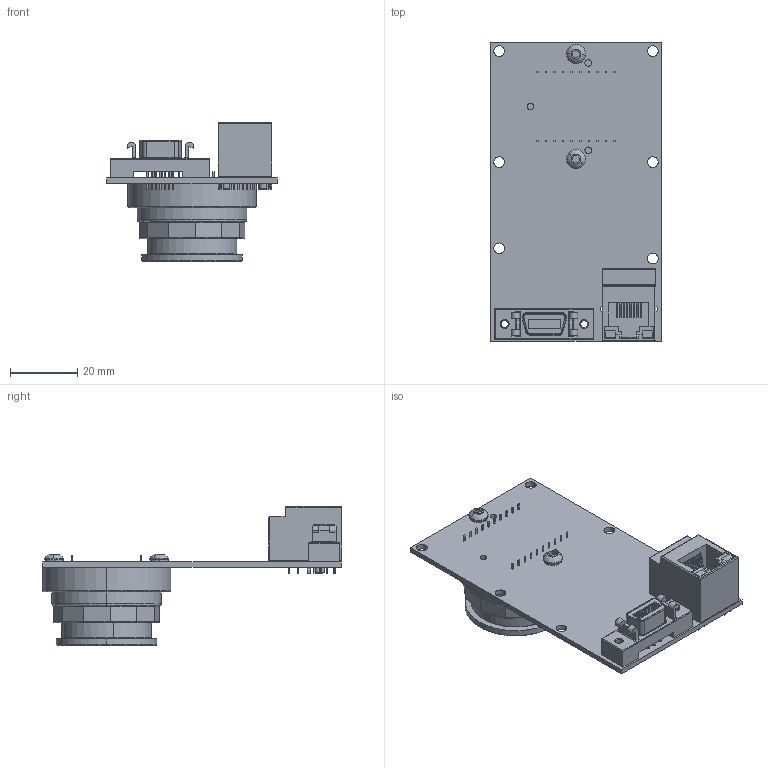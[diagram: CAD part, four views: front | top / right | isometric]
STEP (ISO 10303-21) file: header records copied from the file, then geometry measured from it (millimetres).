
FILE_DESCRIPTION (( 'STEP AP214' ), '1' );
FILE_NAME ('GB1380-V.STEP', '2013-07-31T22:55:26', ( '' ), ( '' ), 'SwSTEP 2.0', 'SolidWorks 2013', '' );
FILE_SCHEMA (( 'AUTOMOTIVE_DESIGN' ));
Length unit declared in the file: millimetre
Products named in the file (16): 140008-washer spring lock #4; 200082B-GB1380-650-LS-V; 260038-HALO HFJV1-E1G16-L12RL; 200080B-GB1380-650-LS; 210046B-GB1380-650-LS; 260040-3M 10214-6212PC; GB1380-V; 110003AC-CV CMOUNT RING; 110094A-GB CCD GASKET; 110031A-B EC-CCD LOCKING RING; 220053-SONY ICX285AL; Sony ICX285 WINDOW; Sony ICX285 BODY; 140027-SCREW BUTTON M3x6 SS; 140004-LOW COST C-MOUNT CAP; 110078A-GB MOUNT
Assembly tree (17 placements, depth 4):
  GB1380-V
    200082B-GB1380-650-LS-V
      260040-3M 10214-6212PC
      200080B-GB1380-650-LS
        210046B-GB1380-650-LS
      260038-HALO HFJV1-E1G16-L12RL
    140008-washer spring lock #4  x2
    110078A-GB MOUNT
    140004-LOW COST C-MOUNT CAP
    140027-SCREW BUTTON M3x6 SS  x2
    220053-SONY ICX285AL
      Sony ICX285 BODY
      Sony ICX285 WINDOW
    110031A-B EC-CCD LOCKING RING
    110094A-GB CCD GASKET
    110003AC-CV CMOUNT RING
Bounding box: 50.8 x 88.9 x 41.38 mm (x, y, z)
Volume: 22712.7 mm3; surface area: 29887.9 mm2
Topology: 14 solids, 14 shells, 1127 faces, 2883 edges, 1835 vertices
Faces by surface type: plane 675, cylinder 262, cone 168, bspline 22
Entity records: 46615 total; most frequent: CARTESIAN_POINT 6539, DIRECTION 5672, ORIENTED_EDGE 5646, EDGE_CURVE 2823, LINE 2096, VECTOR 2096, VERTEX_POINT 1799, AXIS2_PLACEMENT_3D 1788
